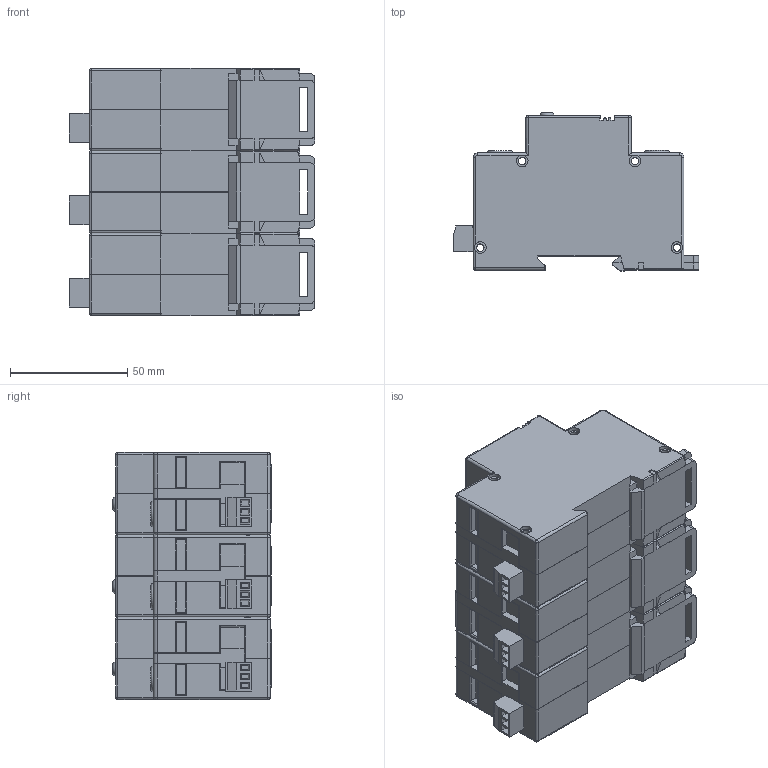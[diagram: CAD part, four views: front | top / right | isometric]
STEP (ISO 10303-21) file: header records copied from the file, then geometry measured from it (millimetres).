
FILE_DESCRIPTION(/* description */ (''),/* implementation_level */ '2;1');
FILE_NAME(/* name */ 'HLA50 3+0 S.stp',/* time_stamp */ '2024-08-02T09:27:15+02:00',/* author */ ('miko'),/* organization */ (''),/* preprocessor_version */ 'ST-DEVELOPER v20',/* originating_system */ 'Autodesk Inventor 2024',/* authorisation */ '');
FILE_SCHEMA (('AUTOMOTIVE_DESIGN { 1 0 10303 214 3 1 1 }'));
Length unit declared in the file: millimetre
Products named in the file (8): HLA50 3+0 S; HLA50 S; HLA50 S_1; HLA S (Z); HLA S (Z)_1; DIN 7985 (H) - M6x10-H; 15EDGK - 3.81 3P (RAL 2012); 15EDGRC - 3.81 3P (RAL 2012) (OBRÁCENÉ VÝV
ODY)
Assembly tree (12 placements, depth 3):
  HLA50 3+0 S
    HLA50 S  x2
      HLA50 S_1
      DIN 7985 (H) - M6x10-H
      15EDGK - 3.81 3P (RAL 2012)
      15EDGRC - 3.81 3P (RAL 2012) (OBRÁCENÉ VÝV
ODY)
    HLA S (Z)
      HLA S (Z)_1
      DIN 7985 (H) - M6x10-H
      15EDGK - 3.81 3P (RAL 2012)
      15EDGRC - 3.81 3P (RAL 2012) (OBRÁCENÉ VÝV
ODY)
Bounding box: 104.8 x 67.7 x 105.6 mm (x, y, z)
Volume: 525852.8 mm3; surface area: 86499.4 mm2
Topology: 14 solids, 27 shells, 2016 faces, 5247 edges, 3357 vertices
Faces by surface type: plane 1464, cylinder 382, cone 90, torus 33, bspline 24, sphere 23
Full cylindrical faces by diameter (mm): 0.968 x9, 1 x18, 1.9 x9, 2 x9, 2.5 x9, 3.2 x12, 5 x24, 5.5 x5, 6 x5, 8 x6
Entity records: 32008 total; most frequent: CARTESIAN_POINT 5738, ORIENTED_EDGE 5428, DIRECTION 5328, EDGE_CURVE 2714, LINE 2106, VECTOR 2106, VERTEX_POINT 1721, AXIS2_PLACEMENT_3D 1611
